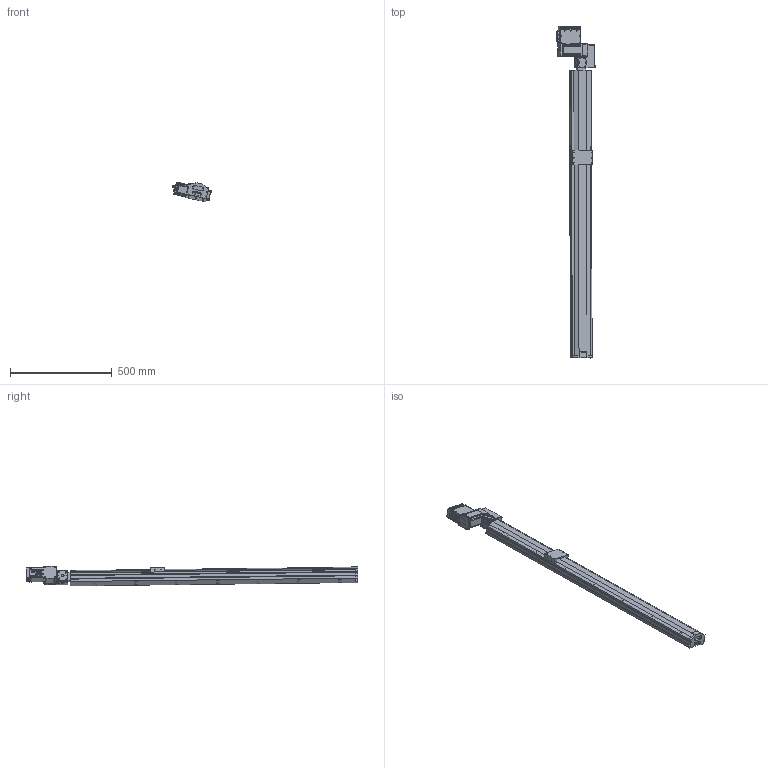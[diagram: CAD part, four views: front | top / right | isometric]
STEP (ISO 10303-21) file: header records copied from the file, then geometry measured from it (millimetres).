
FILE_DESCRIPTION (( 'STEP AP203' ), '1' );
FILE_NAME ('S10 TBN LH S1400.STEP', '2012-12-07T12:39:38', ( 'Conseil Régional Haute-Normandie' ), ( 'Conseil Régional Haute-Normandie' ), 'SwSTEP 2.0', 'SolidWorks 2010', '' );
FILE_SCHEMA (( 'CONFIG_CONTROL_DESIGN' ));
Products named in the file (29): S10 TBN LH S1400; Plaque racord_Default; renvoi LH_Default; BU45 Carte d''axe A11_5; Moteur 60BLDC90A_3; Couvercle_3; Radiateur profil_X2_00E9_X0_ 100x25_3; T_X2_00F4_X0_le Arri_X2_00E8_X0_re_5; Colonnette ronde_3; Cvis M5 L30_Default; axe 1400_Default; cache t皻e axe_Default; cache t皻e_Default; embout; plaque de bout s10_Default; Assem1_7; T_X2_00F4_X0_le contre le moteur_5; BU41 Carte Alimentation P05_3; Colonnette_3; T_X2_00F4_X0_le fond_3; Connecteur rond D10 3cts_5; Connecteur rond D12 4cts_5; Sub D 9cts 90_X2_00B_X0__3; T_X2_00F4_X0_le lat_X2_00E9_X0_rale_5; Vis TF 3 torkx_1_1; vis M5 L12_Default; vis M5 L5_Default; axe 1400; palette tbn
Assembly tree (59 placements, depth 3):
  S10 TBN LH S1400
    axe 1400_Default
      axe 1400
    vis M5 L5_Default  x4
    cache t皻e_Default  x2
    embout
    renvoi LH_Default
    vis M5 L12_Default  x4
    Plaque racord_Default
    Assem1_7
      Connecteur rond D12 4cts_5
      Colonnette ronde_3
      Vis TF 3 torkx_1_1  x21
      T_X2_00F4_X0_le Arri_X2_00E8_X0_re_5
      T_X2_00F4_X0_le contre le moteur_5
      Sub D 9cts 90_X2_00B_X0__3
      BU41 Carte Alimentation P05_3
      Couvercle_3
      Colonnette_3  x2
      T_X2_00F4_X0_le fond_3
      T_X2_00F4_X0_le lat_X2_00E9_X0_rale_5  x2
      Moteur 60BLDC90A_3
      BU45 Carte d''axe A11_5
      Connecteur rond D10 3cts_5  x2
      Radiateur profil_X2_00E9_X0_ 100x25_3
    plaque de bout s10_Default
    Cvis M5 L30_Default  x2
    cache t皻e axe_Default
    palette tbn
Bounding box: 191.09 x 1629.07 x 97.45 mm (x, y, z)
Volume: 8092224.4 mm3; surface area: 978191.1 mm2
Topology: 57 solids, 57 shells, 2190 faces, 5473 edges, 3542 vertices
Faces by surface type: plane 1029, cylinder 960, cone 166, bspline 32, torus 3
Entity records: 46632 total; most frequent: CARTESIAN_POINT 8417, DIRECTION 7518, ORIENTED_EDGE 6842, EDGE_CURVE 3421, AXIS2_PLACEMENT_3D 2792, VERTEX_POINT 2236, VECTOR 1934, LINE 1934
